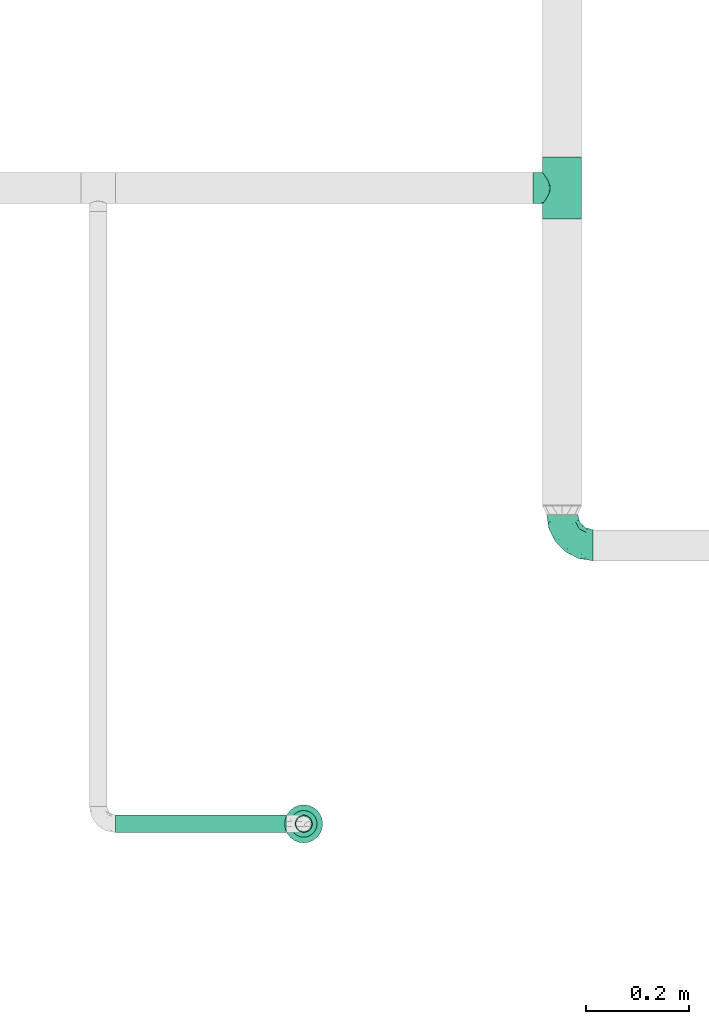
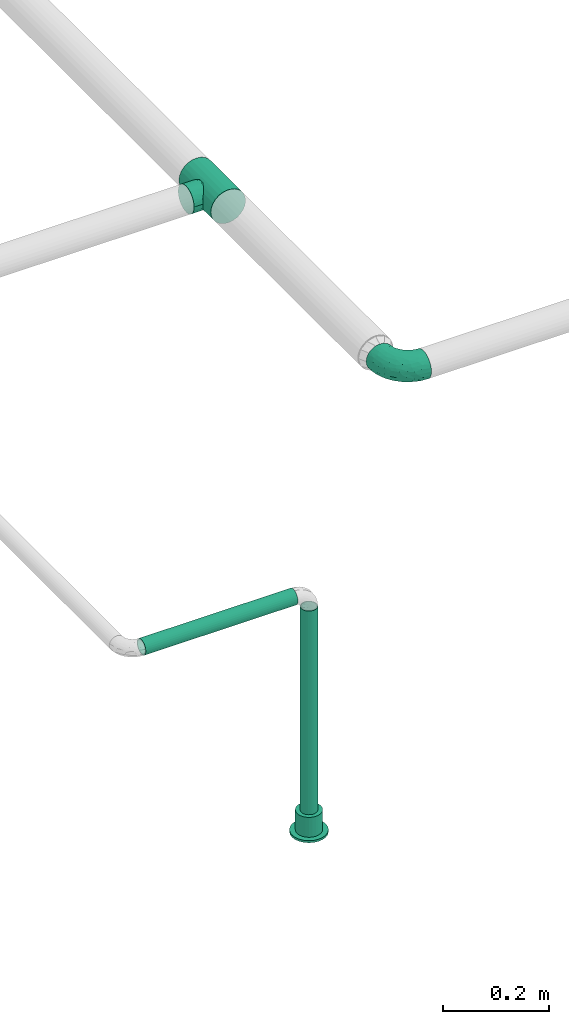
# One storey, part 26 of 95: 2 flow fittings, 2 flow segments, 1 flow terminal.
"""IFC2X3 building model written with IfcOpenShell, lengths in millimetres."""

import ifcopenshell
import ifcopenshell.guid

model = None  # the IFC model being written
_history = None  # IfcOwnerHistory: only IFC2X3 demands one
_inside = {}  # id of a spatial element -> (the spatial element, [elements in it])
_under = {}  # id of a project, library or spatial element -> (it, [spatial elements below it])
_declared = {}  # id of a project -> (the project, [libraries it declares])
_typed = {}  # id of a type object -> (the type object, [elements of that type])
_made_of = {}  # id of a material, layer set ... -> (it, [elements and type objects made of it])


def new_model(schema):
    """Start an empty IFC model of exactly this schema.

    Asked for "IFC4X3", IfcOpenShell would pick the latest addendum, in which some entities
    have other attributes; the version numbers below select the first issue.
    IFC2X3 requires an IfcOwnerHistory on every rooted entity: one is made here for all.
    """
    global model, _history
    if schema == "IFC4X3":
        model = ifcopenshell.file(schema_version=(4, 3, 0, 0))
    else:
        model = ifcopenshell.file(schema=schema)
    _inside.clear()
    _under.clear()
    _declared.clear()
    _typed.clear()
    _made_of.clear()
    _history = None
    if model.schema == "IFC2X3":
        org = make("IfcOrganization", Name="unknown")
        user = make(
            "IfcPersonAndOrganization",
            ThePerson=make("IfcPerson", FamilyName="unknown"),
            TheOrganization=org,
        )
        app = make(
            "IfcApplication",
            ApplicationDeveloper=org,
            Version="unknown",
            ApplicationFullName="unknown",
            ApplicationIdentifier="unknown",
        )
        _history = make(
            "IfcOwnerHistory",
            OwningUser=user,
            OwningApplication=app,
            ChangeAction="ADDED",
            CreationDate=0,
        )
    return model


def make(cls, **values):
    """One entity of the class cls with the attributes given. An attribute that is None is left unset."""
    return model.create_entity(
        cls, **{name: value for name, value in values.items() if value is not None}
    )


def entity(cls, *values):
    """Any entity or typed value of the class cls, its attributes in the order of the schema. None: left unset."""
    e = model.create_entity(cls)
    for i, value in enumerate(values):
        if value is not None:
            e[i] = value
    return e


def rooted(cls, **values):
    """An entity with a GlobalId (a new one), such as an element, a storey or a relation."""
    return make(cls, GlobalId=ifcopenshell.guid.new(), OwnerHistory=_history, **values)


def si_unit(unit_type, name, prefix=None):
    """IfcSIUnit, for example si_unit("LENGTHUNIT", "METRE", prefix="MILLI")."""
    return make("IfcSIUnit", UnitType=unit_type, Prefix=prefix, Name=name)


def converted_unit(unit_type, name, factor, base, dimensions=None, offset=None):
    """IfcConversionBasedUnit, such as the inch: factor (a typed value) times the base unit."""
    return make(
        "IfcConversionBasedUnit"
        if offset is None
        else "IfcConversionBasedUnitWithOffset",
        ConversionOffset=offset,
        Dimensions=None
        if dimensions is None
        else entity("IfcDimensionalExponents", *dimensions),
        UnitType=unit_type,
        Name=name,
        ConversionFactor=make(
            "IfcMeasureWithUnit", ValueComponent=factor, UnitComponent=base
        ),
    )


def derived_unit(unit_type, elements):
    """IfcDerivedUnit: a product of units, each with its exponent."""
    return make(
        "IfcDerivedUnit",
        Elements=[
            make("IfcDerivedUnitElement", Unit=unit, Exponent=power)
            for unit, power in elements
        ],
        UnitType=unit_type,
    )


def assignment(units):
    """IfcUnitAssignment: the units of a project."""
    return None if units is None else make("IfcUnitAssignment", Units=units)


def point(xyz):
    """IfcCartesianPoint."""
    return None if xyz is None else make("IfcCartesianPoint", Coordinates=xyz)


def direction(xyz):
    """IfcDirection."""
    return None if xyz is None else make("IfcDirection", DirectionRatios=xyz)


def frame(location, z_axis=None, x_axis=None):
    """IfcAxis2Placement3D, a coordinate frame: its origin and axes. An axis left out is left unset."""
    return make(
        "IfcAxis2Placement3D",
        Location=point(location),
        Axis=direction(z_axis),
        RefDirection=direction(x_axis),
    )


def frame_2d(location, x_axis=None):
    """IfcAxis2Placement2D, a coordinate frame in the plane: its origin and x axis."""
    return make(
        "IfcAxis2Placement2D", Location=point(location), RefDirection=direction(x_axis)
    )


def origin_with_axes():
    """The frame at (0, 0, 0) with the z axis (0, 0, 1) and the x axis (1, 0, 0) written out."""
    return frame((0.0, 0.0, 0.0), z_axis=(0.0, 0.0, 1.0), x_axis=(1.0, 0.0, 0.0))


def origin_2d_with_axis():
    """The frame at (0, 0) in the plane with the x axis (1, 0) written out."""
    return frame_2d((0.0, 0.0), x_axis=(1.0, 0.0))


def place(relative_to, where):
    """IfcLocalPlacement: puts the frame where relative to a parent placement (None: the world)."""
    return make(
        "IfcLocalPlacement", PlacementRelTo=relative_to, RelativePlacement=where
    )


def context(
    kind, dimensions, precision=None, world=None, true_north=None, identifier=None
):
    """IfcGeometricRepresentationContext, for example the 3D "Model" context."""
    return make(
        "IfcGeometricRepresentationContext",
        ContextIdentifier=identifier,
        ContextType=kind,
        CoordinateSpaceDimension=dimensions,
        Precision=precision,
        WorldCoordinateSystem=world,
        TrueNorth=true_north,
    )


def subcontext(parent, identifier, kind, view, scale=None):
    """IfcGeometricRepresentationSubContext, for example "Body" below "Model"."""
    return make(
        "IfcGeometricRepresentationSubContext",
        ContextIdentifier=identifier,
        ContextType=kind,
        ParentContext=parent,
        TargetScale=scale,
        TargetView=view,
    )


def project(units=None, contexts=None):
    """IfcProject with its units and contexts."""
    return rooted(
        "IfcProject",
        Name="project",
        RepresentationContexts=contexts,
        UnitsInContext=assignment(units),
    )


def spatial(cls, under=None, at=None, **own):
    """A site, building, storey or space (cls), placed at a placement, below another one or the project."""
    s = rooted(cls, ObjectPlacement=at, **own)
    if under is not None:
        _under.setdefault(under.id(), (under, []))[1].append(s)
    return s


def profile(cls, at=None, kind="AREA", **sizes):
    """A parametric profile (cls). Its sizes go by their IFC names, for example OverallWidth=200.0."""
    return make(cls, ProfileType=kind, Position=at, **sizes)


def hollow_circle(**sizes):
    """IfcCircleHollowProfileDef."""
    return profile("IfcCircleHollowProfileDef", **sizes)


def extrude(swept, where, along, depth):
    """IfcExtrudedAreaSolid: the profile swept, set in the frame where, extruded along a direction by depth."""
    return make(
        "IfcExtrudedAreaSolid",
        SweptArea=swept,
        Position=where,
        ExtrudedDirection=direction(along),
        Depth=depth,
    )


def faces_of(points, faces, orient=None, outer=None):
    """IfcFace entities. A face is a list of loops; a loop is a list of indices into points, from 0.

    orient and outer hold one flag for each loop. By default every Orientation is true, the
    first loop of a face is its IfcFaceOuterBound and the others are IfcFaceBound.
    """
    made = []
    for i, loops in enumerate(faces):
        bounds = []
        for j, loop in enumerate(loops):
            is_outer = j == 0 if outer is None else outer[i][j]
            bounds.append(
                make(
                    "IfcFaceOuterBound" if is_outer else "IfcFaceBound",
                    Bound=make("IfcPolyLoop", Polygon=[points[k] for k in loop]),
                    Orientation=True if orient is None else orient[i][j],
                )
            )
        made.append(make("IfcFace", Bounds=bounds))
    return made


def open_shell(faces, orient=None, outer=None):
    """The faces of one IfcOpenShell. surface_model builds it on its shared points."""
    return ("IfcOpenShell", faces, orient, outer)


def surface_model(cls, points, shells):
    """IfcFaceBasedSurfaceModel or IfcShellBasedSurfaceModel (cls): surfaces that need not close."""
    shared = [point(p) for p in points]
    made = [make(c, CfsFaces=faces_of(shared, fs, o, b)) for c, fs, o, b in shells]
    if cls == "IfcFaceBasedSurfaceModel":
        return make(cls, FbsmFaces=made)
    return make(cls, SbsmBoundary=made)


def shape(context_of_items, identifier, shape_type, items):
    """IfcShapeRepresentation: the items that make up one representation, for example the "Body"."""
    return make(
        "IfcShapeRepresentation",
        ContextOfItems=context_of_items,
        RepresentationIdentifier=identifier,
        RepresentationType=shape_type,
        Items=items,
    )


def source(mapping_origin, context_of_items, identifier, shape_type, items):
    """IfcRepresentationMap: a shape defined once, which mapped items show again and again."""
    return make(
        "IfcRepresentationMap",
        MappingOrigin=mapping_origin,
        MappedRepresentation=shape(context_of_items, identifier, shape_type, items),
    )


def transform(
    local_origin,
    x_axis=None,
    y_axis=None,
    z_axis=None,
    scale=None,
    scale2=None,
    scale3=None,
    uniform=True,
):
    """IfcCartesianTransformationOperator3D, or its non-uniform kind. x_axis, y_axis, z_axis: its Axis1, 2, 3."""
    if uniform:
        return make(
            "IfcCartesianTransformationOperator3D",
            Axis1=direction(x_axis),
            Axis2=direction(y_axis),
            LocalOrigin=point(local_origin),
            Scale=scale,
            Axis3=direction(z_axis),
        )
    return make(
        "IfcCartesianTransformationOperator3DnonUniform",
        Axis1=direction(x_axis),
        Axis2=direction(y_axis),
        LocalOrigin=point(local_origin),
        Scale=scale,
        Axis3=direction(z_axis),
        Scale2=scale2,
        Scale3=scale3,
    )


def mapped(mapping_source, mapping_target):
    """IfcMappedItem: shows the shape of a source again, moved by a transform."""
    return make(
        "IfcMappedItem", MappingSource=mapping_source, MappingTarget=mapping_target
    )


def made_of(thing, what):
    """Note that an element or type object is made of a material, layer set ...; save() writes the relation."""
    if what is not None:
        _made_of.setdefault(what.id(), (what, []))[1].append(thing)
    return thing


def type_object(cls, material=None, **own):
    """A type object (cls), such as IfcWallType, which elements share."""
    return made_of(rooted(cls, **own), material)


def element(
    cls,
    number,
    at=None,
    inside=None,
    cuts=None,
    type_object=None,
    material=None,
    context=None,
    identifier="Body",
    shape_type=None,
    held_by="IfcProductDefinitionShape",
    body=None,
    shapes=None,
    **own,
):
    """One element of the class cls, such as IfcWall. Its Tag is "e" and its number.

    at: its placement. inside: the storey or other place that contains it. cuts: it is an
    opening in that element (IfcRelVoidsElement). A single representation is given by context,
    identifier, shape_type and body (its items); several are given by shapes. held_by: the class
    of the entity that holds the representations. save() writes the other relations.
    """
    e = rooted(cls, Tag="e%d" % number, ObjectPlacement=at, **own)
    if body is not None:
        shapes = [shape(context, identifier, shape_type, body)]
    if shapes is not None:
        e.Representation = make(held_by, Representations=shapes)
    if inside is not None:
        _inside.setdefault(inside.id(), (inside, []))[1].append(e)
    if cuts is not None:
        rooted(
            "IfcRelVoidsElement", RelatingBuildingElement=cuts, RelatedOpeningElement=e
        )
    if type_object is not None:
        _typed.setdefault(type_object.id(), (type_object, []))[1].append(e)
    return made_of(e, material)


def aggregate(whole, parts):
    """IfcRelAggregates: a whole, such as a stair, and the parts it consists of."""
    return rooted("IfcRelAggregates", RelatingObject=whole, RelatedObjects=parts)


def save(model, path):
    """Write the relations noted so far, then the file.

    IfcRelAggregates (storeys below a building ...), IfcRelContainedInSpatialStructure (elements
    in a storey), IfcRelDefinesByType, IfcRelAssociatesMaterial and IfcRelDeclares: one each for
    every whole, place, type object, material and project.
    """
    for whole, parts in _under.values():
        aggregate(whole, parts)
    for where, things in _inside.values():
        rooted(
            "IfcRelContainedInSpatialStructure",
            RelatedElements=things,
            RelatingStructure=where,
        )
    for kind, things in _typed.values():
        rooted("IfcRelDefinesByType", RelatedObjects=things, RelatingType=kind)
    for what, things in _made_of.values():
        rooted("IfcRelAssociatesMaterial", RelatedObjects=things, RelatingMaterial=what)
    for by, libraries in _declared.values():
        rooted("IfcRelDeclares", RelatingContext=by, RelatedDefinitions=libraries)
    model.write(path)


model = new_model("IFC2X3")

# Units and contexts
model_context = context("Model", 3, precision=0.01, world=frame((0.0, 4.29681676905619e-09, 0.0)), true_north=direction((4.01073788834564e-13, 1.0)))
plan_context = context("Plan", 3, precision=0.01, world=frame((0.0, 4.29681676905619e-09, 0.0)), true_north=direction((4.01073788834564e-13, 1.0)))
body_context = subcontext(model_context, "Body", "Model", "MODEL_VIEW")
ifc_project = project(units=[converted_unit("PLANEANGLEUNIT", "DEGREE", entity("IfcPositiveLengthMeasure", 0.0174532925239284), si_unit("PLANEANGLEUNIT", "RADIAN"), dimensions=[0, 0, 0, 0, 0, 0, 0]), si_unit("AREAUNIT", "SQUARE_METRE"), si_unit("LENGTHUNIT", "METRE", prefix="MILLI"), si_unit("MASSUNIT", "GRAM", prefix="KILO"), si_unit("POWERUNIT", "WATT"), si_unit("PRESSUREUNIT", "PASCAL"), si_unit("FORCEUNIT", "NEWTON", prefix="KILO"), si_unit("ELECTRICVOLTAGEUNIT", "VOLT"), si_unit("ELECTRICCURRENTUNIT", "AMPERE"), si_unit("THERMODYNAMICTEMPERATUREUNIT", "DEGREE_CELSIUS"), si_unit("TIMEUNIT", "SECOND"), si_unit("VOLUMEUNIT", "CUBIC_METRE"), derived_unit("LINEARVELOCITYUNIT", [(si_unit("LENGTHUNIT", "METRE"), 1), (si_unit("TIMEUNIT", "SECOND"), -1)]), derived_unit("VOLUMETRICFLOWRATEUNIT", [(si_unit("VOLUMEUNIT", "CUBIC_METRE"), 1), (si_unit("TIMEUNIT", "SECOND"), -1)]), derived_unit("THERMALTRANSMITTANCEUNIT", [(si_unit("POWERUNIT", "WATT"), 1), (si_unit("THERMODYNAMICTEMPERATUREUNIT", "KELVIN"), -1), (si_unit("AREAUNIT", "SQUARE_METRE"), -1)]), derived_unit("SOUNDPRESSUREUNIT", [(si_unit("PRESSUREUNIT", "PASCAL"), 1)])], contexts=[model_context, plan_context])

# Site, building, storey
site_placement = place(None, frame((0.0, -4.29681676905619e-09, 0.0), z_axis=(0.0, 0.0, 1.0), x_axis=(1.0, 0.0, 0.0)))
site = spatial("IfcSite", under=ifc_project, at=site_placement, CompositionType="ELEMENT")
building_placement = place(site_placement, frame((0.0, 4.29681676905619e-09, 0.0), z_axis=(0.0, 0.0, 1.0), x_axis=(1.0, 0.0, 0.0)))
building = spatial("IfcBuilding", under=site, at=building_placement, Name="mc-building", CompositionType="ELEMENT")
storey_placement = place(building_placement, frame((0.0, 0.0, 210900.0), z_axis=(0.0, 0.0, 1.0), x_axis=(1.0, 0.0, 0.0)))
storey = spatial("IfcBuildingStorey", under=building, at=storey_placement, Name="Nivå F", CompositionType="ELEMENT", Elevation=210900.0)

# Flow fittings
pipe_fitting_type_1 = type_object("IfcPipeFittingType", Name="magi_pipe_fe_tee_centric_90_NOR", PredefinedType="JUNCTION")
shared_shape_1 = source(origin_with_axes(), body_context, "Body", "SurfaceModel", [
    surface_model("IfcShellBasedSurfaceModel", [(-60.4, 9.86101, -36.80177), (-60.4, 0.0, -38.1), (-60.4, 36.80177, -9.86101), (-60.4, 19.05, -32.99557), (-60.4, 32.99557, -19.05), (-60.4, 26.94077, -26.94077), (-60.4, -38.1, 0.0), (-60.4, -19.05, -32.99557), (-60.4, -26.94077, -26.94077), (-60.4, -9.86101, -36.80177), (-60.4, -32.99557, -19.05), (-60.4, -36.80177, -9.86101), (-60.4, 38.1, 0.0), (-60.4, 32.99557, 19.05), (-60.4, 36.80177, 9.86101), (-60.4, -36.80177, 9.86101), (-60.4, 19.05, 32.99557), (-60.4, 26.94077, 26.94077), (-60.4, 9.86101, 36.80177), (-60.4, 0.0, 38.1), (-60.4, -26.94077, 26.94077), (-60.4, -32.99557, 19.05), (-60.4, -9.86101, 36.80177), (-60.4, -19.05, 32.99557), (60.4, 0.0, -38.1), (60.4, 9.86101, -36.80177), (60.4, 19.05, -32.99557), (60.4, 26.94077, -26.94077), (60.4, 32.99557, -19.05), (60.4, 36.80177, -9.86101), (60.4, -38.1, 0.0), (60.4, -9.86101, -36.80177), (60.4, -26.94077, -26.94077), (60.4, -19.05, -32.99557), (60.4, -32.99557, -19.05), (60.4, -36.80177, -9.86101), (60.4, 36.80177, 9.86101), (60.4, 32.99557, 19.05), (60.4, 19.05, 32.99557), (60.4, 0.0, 38.1), (60.4, 26.94077, 26.94077), (60.4, 9.86101, 36.80177), (60.4, -26.94077, 26.94077), (60.4, -32.99557, 19.05), (60.4, -36.80177, 9.86101), (60.4, -19.05, 32.99557), (60.4, -9.86101, 36.80177), (60.4, 38.1, 0.0), (30.2, -38.1, 0.0), (28.21297, -36.54506, 10.7735), (22.90358, -32.62122, 19.68415), (15.23524, -27.77917, 26.07542), (5.49864, -23.87059, 29.6952), (-30.2, -38.1, 0.0), (-28.21409, -36.54593, 10.77057), (-15.2375, -27.78041, 26.0741), (-5.50829, -23.87281, 29.69341), (-22.9083, -32.62453, 19.67866), (5.49864, -23.87059, -29.6952), (22.90358, -32.62122, -19.68415), (15.23524, -27.77917, -26.07542), (28.21297, -36.54506, -10.7735), (-5.50829, -23.87281, -29.69341), (-15.2375, -27.78041, -26.0741), (-22.9083, -32.62453, -19.67866), (-28.21409, -36.54593, -10.77057), (-21.35462, -57.15, -21.35462), (0.0, -57.15, -30.2), (7.81634, -57.15, -29.17096), (15.1, -57.15, -26.15397), (-30.2, -57.15, 0.0), (26.15397, -57.15, -15.1), (21.35462, -57.15, -21.35462), (26.15397, -57.15, 15.1), (-7.81634, -57.15, -29.17096), (-15.1, -57.15, -26.15397), (-29.17096, -57.15, -7.81634), (-26.15397, -57.15, -15.1), (29.17096, -57.15, -7.81634), (30.2, -57.15, 0.0), (29.17096, -57.15, 7.81634), (7.81634, -57.15, 29.17096), (15.1, -57.15, 26.15397), (21.35462, -57.15, 21.35462), (-21.35462, -57.15, 21.35462), (-26.15397, -57.15, 15.1), (-29.17096, -57.15, 7.81634), (-15.1, -57.15, 26.15397), (0.0, -57.15, 30.2), (-7.81634, -57.15, 29.17096), (-29.20704, -37.32296, 5.38529), (29.20648, -37.32253, 5.38675), (-0.00482, -23.8717, 29.69431), (29.20648, -37.32253, -5.38675), (-29.20704, -37.32296, -5.38529), (-0.00482, -23.8717, -29.69431)], [open_shell([[[0, 1, 2]], [[3, 0, 2]], [[2, 4, 5]], [[3, 2, 5]], [[6, 2, 1]], [[7, 8, 9]], [[8, 1, 9]], [[10, 11, 8]], [[6, 8, 11]], [[8, 6, 1]], [[6, 12, 2]], [[13, 14, 12]], [[15, 13, 6]], [[16, 13, 15]], [[17, 13, 16]], [[18, 16, 19]], [[20, 19, 21]], [[16, 15, 21]], [[22, 19, 23]], [[20, 23, 19]], [[21, 19, 16]], [[12, 6, 13]], [[24, 25, 26]], [[24, 26, 27]], [[27, 28, 29]], [[24, 27, 30]], [[30, 27, 29]], [[31, 32, 33]], [[31, 24, 32]], [[34, 30, 35]], [[30, 34, 32]], [[24, 30, 32]], [[29, 36, 30]], [[36, 37, 30]], [[30, 37, 38]], [[38, 39, 30]], [[38, 37, 40]], [[39, 38, 41]], [[30, 42, 43]], [[44, 30, 43]], [[45, 39, 46]], [[45, 42, 30]], [[30, 39, 45]], [[36, 29, 47]], [[30, 44, 48]], [[49, 48, 44]], [[44, 43, 49]], [[43, 42, 50]], [[51, 50, 42]], [[52, 51, 42]], [[42, 45, 52]], [[43, 50, 49]], [[53, 54, 15]], [[15, 6, 53]], [[54, 21, 15]], [[55, 56, 20]], [[21, 57, 20]], [[57, 21, 54]], [[20, 57, 55]], [[56, 23, 20]], [[52, 23, 56]], [[19, 46, 39]], [[22, 45, 46]], [[18, 39, 41]], [[37, 36, 14]], [[17, 38, 40]], [[13, 40, 37]], [[41, 38, 16]], [[12, 36, 47]], [[23, 45, 22]], [[22, 46, 19]], [[18, 19, 39]], [[41, 16, 18]], [[16, 38, 17]], [[13, 17, 40]], [[14, 13, 37]], [[36, 12, 14]], [[45, 23, 52]], [[29, 28, 4]], [[28, 27, 5]], [[47, 29, 12]], [[24, 31, 9]], [[25, 0, 26]], [[1, 25, 24]], [[26, 3, 27]], [[7, 31, 33]], [[2, 12, 29]], [[28, 5, 4]], [[2, 29, 4]], [[27, 3, 5]], [[3, 26, 0]], [[1, 0, 25]], [[9, 1, 24]], [[31, 7, 9]], [[33, 58, 7]], [[32, 59, 60]], [[59, 32, 34]], [[60, 58, 32]], [[32, 58, 33]], [[35, 30, 48]], [[35, 61, 34]], [[61, 35, 48]], [[34, 61, 59]], [[62, 63, 8]], [[8, 64, 10]], [[64, 8, 63]], [[62, 8, 7]], [[65, 53, 11]], [[65, 11, 10]], [[11, 53, 6]], [[65, 10, 64]], [[58, 62, 7]], [[66, 67, 68]], [[69, 66, 68]], [[70, 69, 71]], [[71, 69, 72]], [[73, 70, 71]], [[74, 66, 75]], [[74, 67, 66]], [[66, 76, 77]], [[76, 66, 70]], [[69, 70, 66]], [[71, 78, 79]], [[79, 80, 73]], [[81, 70, 73]], [[82, 81, 73]], [[82, 73, 83]], [[70, 81, 84]], [[70, 85, 86]], [[84, 85, 70]], [[87, 88, 89]], [[88, 87, 84]], [[81, 88, 84]], [[73, 71, 79]], [[86, 90, 70]], [[57, 85, 84]], [[91, 49, 80]], [[86, 85, 54]], [[84, 87, 55]], [[90, 53, 70]], [[54, 85, 57]], [[55, 89, 56]], [[55, 57, 84]], [[88, 52, 92]], [[55, 87, 89]], [[88, 56, 89]], [[51, 81, 82]], [[86, 54, 90]], [[83, 51, 82]], [[49, 73, 80]], [[83, 73, 50]], [[52, 88, 81]], [[81, 51, 52]], [[92, 56, 88]], [[51, 83, 50]], [[50, 73, 49]], [[79, 91, 80]], [[91, 79, 48]], [[78, 93, 79]], [[59, 71, 72]], [[94, 65, 76]], [[78, 71, 61]], [[72, 69, 60]], [[93, 48, 79]], [[61, 71, 59]], [[60, 68, 58]], [[60, 59, 72]], [[67, 62, 95]], [[60, 69, 68]], [[67, 58, 68]], [[63, 74, 75]], [[78, 61, 93]], [[66, 63, 75]], [[65, 77, 76]], [[66, 77, 64]], [[62, 67, 74]], [[74, 63, 62]], [[95, 58, 67]], [[63, 66, 64]], [[64, 77, 65]], [[70, 94, 76]], [[94, 70, 53]]])]),
])
flow_fitting_1_placement = place(storey_placement, frame((534602.7875, 450838.0, 4310.0), z_axis=(0.0, 0.0, 1.0), x_axis=(0.0, -1.0, 0.0)))
element("IfcFlowFitting", 1, at=flow_fitting_1_placement, inside=storey, type_object=pipe_fitting_type_1, Name="magi_pipe_fe_tee_centric_90_NOR", context=body_context, shape_type="MappedRepresentation", body=[
    mapped(shared_shape_1, transform((0.0, 0.0, 0.0), scale=1.0)),
])
pipe_fitting_type_2 = type_object("IfcPipeFittingType", Name="magi_pipe_fe_elbow_short_001", PredefinedType="BEND")
shared_shape_2 = source(origin_with_axes(), body_context, "Body", "SurfaceModel", [
    surface_model("IfcShellBasedSurfaceModel", [(-60.4, 15.1, -26.15397), (-60.4, 7.81634, -29.17096), (-60.4, 0.0, -30.2), (-60.4, -21.35462, -21.35462), (-60.4, 26.15397, -15.1), (-60.4, 21.35462, -21.35462), (-60.4, 29.17096, -7.81634), (-60.4, -15.1, -26.15397), (-60.4, -7.81634, -29.17096), (-60.4, -26.15397, -15.1), (-60.4, -29.17096, -7.81634), (-60.4, -30.2, 0.0), (-60.4, -29.17096, 7.81634), (-60.4, 29.17096, 7.81634), (-60.4, -21.35462, 21.35462), (-60.4, 26.15397, 15.1), (-60.4, 21.35462, 21.35462), (-60.4, 7.81634, 29.17096), (-60.4, 15.1, 26.15397), (-60.4, -26.15397, 15.1), (-60.4, -7.81634, 29.17096), (-60.4, 0.0, 30.2), (-60.4, -15.1, 26.15397), (-60.4, 30.2, 0.0), (0.0, 60.4, -30.2), (-7.81634, 60.4, -29.17096), (-15.1, 60.4, -26.15397), (-26.15397, 60.4, -15.1), (-29.17096, 60.4, -7.81634), (-21.35462, 60.4, -21.35462), (29.17096, 60.4, -7.81634), (7.81634, 60.4, -29.17096), (21.35462, 60.4, -21.35462), (15.1, 60.4, -26.15397), (26.15397, 60.4, -15.1), (29.17096, 60.4, 7.81634), (30.2, 60.4, 0.0), (-29.17096, 60.4, 7.81634), (21.35462, 60.4, 21.35462), (-21.35462, 60.4, 21.35462), (-26.15397, 60.4, 15.1), (-15.1, 60.4, 26.15397), (-7.81634, 60.4, 29.17096), (26.15397, 60.4, 15.1), (15.1, 60.4, 26.15397), (0.0, 60.4, 30.2), (7.81634, 60.4, 29.17096), (-30.2, 60.4, 0.0), (-40.79975, -26.48639, 9.49143), (-44.2927, -23.46036, 16.95222), (-32.40306, -25.76572, 0.0), (-45.54716, -27.84754, 0.0), (-7.73382, -10.42985, 11.64553), (-2.102, -8.06735, 6.35117), (1.74449, -1.74448, 12.51332), (-46.13593, -4.00068, 29.68351), (-42.2898, 4.62925, 30.14853), (10.31662, 7.37496, 11.34434), (18.44156, 24.57514, 15.02148), (7.07276, 10.95732, 19.27498), (-30.06693, -0.27102, 29.27145), (-44.17726, -11.39441, 27.16031), (-23.4551, -7.13383, 25.24246), (-38.74025, -17.25266, 22.43475), (-27.059, -23.14697, 6.2131), (-19.77486, -19.33133, 0.0), (-10.95732, -7.07276, 19.27498), (-5.39458, 5.39458, 24.69106), (-29.52069, 48.20084, 13.12597), (-25.22813, 47.01796, 19.8404), (-11.27311, 52.093, 28.2877), (-4.13904, 45.17494, 30.12582), (-46.55352, 11.8443, 28.52822), (-7.88305, 20.22717, 29.65331), (-15.00576, 5.54025, 28.20072), (-3.0852, 16.31623, 27.75343), (-52.24998, 18.2886, 24.60768), (-10.49591, 29.69865, 30.14582), (-22.36958, 22.36958, 29.4662), (-17.98262, 13.19715, 30.04443), (-47.74519, 32.16745, 6.63994), (-48.21585, 29.51581, 13.12396), (-37.49729, 37.49729, 11.28901), (-47.20967, 25.1754, 19.81929), (17.25266, 38.74025, 22.43475), (-31.32046, 40.03273, 17.09289), (11.39441, 44.17725, 27.16031), (23.46036, 44.2927, 16.95222), (26.48639, 40.79975, 9.49143), (-7.14666, -12.89694, 0.0), (-14.66463, -16.61192, 7.82462), (4.00068, 46.13593, 29.68351), (-33.18602, 12.93608, 29.65955), (-29.63414, 7.40029, 30.18711), (19.33133, 19.77486, 0.0), (23.14697, 27.059, 6.2131), (16.61192, 14.66463, 7.82462), (27.84754, 45.54716, 0.0), (-32.10611, 20.49149, 27.93323), (-24.57514, -18.44156, 15.02148), (-21.89487, 39.03366, 25.38224), (-18.45005, 50.6405, 24.73297), (-31.78933, 48.71949, 6.47886), (-37.84917, 39.61073, 5.315), (13.91334, 24.32737, 20.46816), (7.13383, 23.4551, 25.24246), (-34.24603, 45.3, 0.0), (-27.95749, 31.89166, 24.81537), (-41.58677, 20.50028, 25.43151), (-0.46157, 0.46157, 17.84239), (-17.23338, 31.26213, 29.03145), (-24.05994, 29.23812, 27.47858), (-13.06094, 40.92174, 28.76128), (-31.83392, 33.72702, 21.39203), (-38.78737, 32.45032, 16.84022), (0.27102, 30.06693, 29.27145), (-24.21469, -13.23741, 21.05734), (8.23548, 2.19333, 6.02161), (25.76572, 32.40306, 0.0), (12.89694, 7.14666, 0.0), (-45.3, 34.24603, 0.0), (2.87514, -2.87514, 0.0), (-44.53432, 26.00869, -20.11577), (-48.18822, 29.5248, -13.12766), (-24.67192, -7.62159, -25.33714), (-26.22398, -0.37671, -28.72374), (-12.13397, -0.50536, -24.74577), (-47.80891, 3.81859, -30.10171), (-44.05719, -27.03585, -9.84546), (-37.94552, -22.39569, -16.35738), (-28.81663, -22.64668, -10.132), (-43.93799, 12.32789, -28.63778), (-33.27, 7.1392, -30.19348), (-26.0087, 44.53432, -20.11577), (-48.89164, 31.68872, -6.60822), (-18.95522, 47.41145, -24.9828), (-12.32789, 43.93799, -28.63778), (-38.42778, 38.42778, -7.21049), (18.04263, 43.69152, -22.80146), (10.42233, 38.24532, -26.85918), (11.90576, 51.00473, -27.48545), (-5.88381, -10.62327, -7.95335), (-5.9694, -7.83116, -13.76182), (3.24899, -2.56331, -7.96861), (-17.62229, 16.32998, -30.18286), (-28.62959, 17.86952, -29.30113), (-47.41145, 18.95522, -24.98279), (-50.84455, -24.04089, -17.54629), (-29.38053, 34.30665, -22.74674), (-27.91099, 27.91099, -26.51666), (-36.91219, 25.51094, -23.99233), (2.63361, -0.55507, -12.94367), (-43.69152, -18.04263, -22.80146), (22.39569, 37.94552, -16.35738), (27.03585, 44.05719, -9.84546), (22.64668, 28.81663, -10.132), (-51.00473, -11.90576, -27.48545), (3.80785, 44.49426, -29.64782), (-19.0921, -14.69952, -16.47487), (-22.5489, -12.31934, -21.1263), (-10.94772, -7.46239, -18.88204), (-32.95885, -13.78948, -23.71249), (-38.24532, -10.42233, -26.85918), (-44.49427, -3.80785, -29.64782), (-22.6301, 37.15314, -25.58239), (-31.68872, 48.89164, -6.60822), (-3.8186, 47.80891, -30.10171), (-10.66133, 10.66133, -28.51691), (0.37671, 26.22398, -28.72374), (1.27136, 14.18619, -25.18541), (-29.5248, 48.18821, -13.12766), (-36.27113, 36.27113, -14.88553), (24.04089, 50.84455, -17.54629), (17.50188, 24.2636, -16.21902), (9.73525, 11.44907, -16.75087), (12.31934, 22.5489, -21.1263), (6.24176, 25.78208, -26.38266), (-7.1392, 33.27, -30.19348), (-36.7166, 19.4356, -27.21946), (-18.00754, 29.38864, -29.15505), (-0.28629, 0.28629, -17.49884), (-13.98848, -16.88492, -5.19509), (15.48569, 15.00432, -11.24742), (16.88492, 13.98848, -5.19509), (3.55782, 9.20508, -21.18402), (-15.00432, -15.48569, -11.24742)], [open_shell([[[0, 1, 2]], [[0, 2, 3]], [[4, 0, 3]], [[5, 0, 4]], [[6, 4, 3]], [[7, 3, 8]], [[3, 2, 8]], [[9, 10, 3]], [[3, 10, 6]], [[11, 12, 10]], [[13, 6, 10]], [[13, 10, 14]], [[15, 13, 16]], [[17, 18, 16]], [[13, 17, 16]], [[17, 13, 14]], [[19, 14, 12]], [[12, 14, 10]], [[20, 21, 22]], [[17, 14, 22]], [[17, 22, 21]], [[13, 23, 6]], [[24, 25, 26]], [[24, 26, 27]], [[27, 28, 24]], [[27, 26, 29]], [[24, 28, 30]], [[31, 32, 33]], [[31, 24, 32]], [[32, 30, 34]], [[24, 30, 32]], [[30, 35, 36]], [[30, 28, 37]], [[38, 30, 37]], [[39, 37, 40]], [[39, 41, 42]], [[39, 42, 37]], [[38, 37, 42]], [[35, 38, 43]], [[30, 38, 35]], [[44, 45, 46]], [[44, 38, 42]], [[45, 44, 42]], [[28, 47, 37]], [[48, 49, 19]], [[50, 48, 51]], [[52, 53, 54]], [[12, 48, 19]], [[12, 51, 48]], [[21, 55, 56]], [[19, 49, 14]], [[57, 58, 59]], [[60, 61, 62]], [[63, 22, 14]], [[63, 61, 22]], [[64, 50, 65]], [[62, 66, 67]], [[40, 68, 69]], [[42, 70, 71]], [[17, 72, 18]], [[73, 74, 75]], [[18, 76, 16]], [[20, 55, 21]], [[77, 78, 79]], [[80, 81, 82]], [[15, 83, 81]], [[84, 38, 44]], [[23, 13, 80]], [[13, 15, 81]], [[68, 85, 69]], [[83, 15, 16]], [[21, 56, 17]], [[44, 86, 84]], [[16, 76, 83]], [[87, 58, 88]], [[40, 37, 68]], [[89, 90, 65]], [[45, 91, 46]], [[65, 90, 64]], [[45, 42, 71]], [[92, 93, 79]], [[88, 35, 43]], [[43, 38, 87]], [[87, 88, 43]], [[94, 95, 96]], [[88, 97, 35]], [[98, 72, 92]], [[49, 99, 63]], [[69, 100, 101]], [[82, 102, 103]], [[104, 105, 59]], [[106, 102, 47]], [[98, 107, 108]], [[102, 82, 68]], [[86, 44, 46]], [[69, 39, 40]], [[109, 54, 57]], [[110, 100, 111]], [[22, 61, 20]], [[101, 41, 39]], [[70, 42, 41]], [[112, 77, 71]], [[84, 86, 105]], [[96, 95, 58]], [[100, 69, 113]], [[72, 17, 56]], [[108, 113, 83]], [[81, 114, 82]], [[112, 110, 77]], [[91, 71, 115]], [[62, 61, 63]], [[55, 61, 60]], [[116, 99, 66]], [[74, 62, 67]], [[91, 86, 46]], [[105, 86, 115]], [[75, 105, 115]], [[109, 67, 66]], [[59, 105, 67]], [[48, 64, 99]], [[99, 49, 48]], [[63, 14, 49]], [[38, 84, 87]], [[58, 87, 84]], [[92, 72, 56]], [[76, 72, 108]], [[102, 68, 37]], [[82, 114, 85]], [[98, 111, 107]], [[112, 70, 101]], [[114, 83, 113]], [[82, 103, 80]], [[92, 79, 78]], [[115, 71, 77]], [[74, 79, 60]], [[77, 79, 73]], [[71, 91, 45]], [[86, 91, 115]], [[61, 55, 20]], [[56, 55, 60]], [[57, 54, 117]], [[104, 59, 58]], [[116, 66, 62]], [[52, 99, 90]], [[12, 11, 51]], [[97, 88, 118]], [[97, 36, 35]], [[53, 90, 89]], [[90, 53, 52]], [[94, 96, 119]], [[88, 95, 118]], [[117, 54, 53]], [[92, 56, 93]], [[98, 92, 78]], [[111, 98, 78]], [[72, 98, 108]], [[110, 111, 78]], [[107, 111, 100]], [[47, 102, 37]], [[102, 106, 103]], [[106, 120, 103]], [[103, 120, 80]], [[23, 80, 120]], [[13, 81, 80]], [[56, 60, 93]], [[60, 79, 93]], [[117, 121, 119]], [[121, 117, 53]], [[53, 89, 121]], [[119, 96, 117]], [[117, 96, 57]], [[77, 110, 78]], [[100, 110, 112]], [[83, 114, 81]], [[85, 114, 113]], [[69, 85, 113]], [[82, 85, 68]], [[109, 52, 54]], [[99, 52, 66]], [[69, 101, 39]], [[112, 101, 100]], [[100, 113, 107]], [[108, 107, 113]], [[62, 74, 60]], [[75, 74, 67]], [[105, 75, 67]], [[73, 75, 115]], [[77, 73, 115]], [[74, 73, 79]], [[99, 64, 90]], [[50, 64, 48]], [[118, 95, 94]], [[58, 95, 88]], [[58, 57, 96]], [[109, 57, 59]], [[72, 76, 18]], [[83, 76, 108]], [[101, 70, 41]], [[71, 70, 112]], [[58, 84, 104]], [[105, 104, 84]], [[67, 109, 59]], [[52, 109, 66]], [[62, 63, 116]], [[99, 116, 63]], [[122, 4, 123]], [[124, 125, 126]], [[2, 1, 127]], [[128, 129, 130]], [[127, 131, 132]], [[27, 29, 133]], [[120, 134, 23]], [[135, 26, 136]], [[123, 134, 137]], [[138, 139, 140]], [[122, 5, 4]], [[141, 142, 143]], [[144, 132, 145]], [[131, 0, 146]], [[128, 9, 147]], [[148, 149, 150]], [[128, 51, 10]], [[142, 151, 143]], [[152, 3, 7]], [[153, 154, 155]], [[156, 152, 7]], [[31, 157, 24]], [[158, 159, 160]], [[147, 9, 3]], [[129, 152, 161]], [[156, 7, 8]], [[162, 163, 125]], [[154, 34, 30]], [[120, 106, 137]], [[149, 148, 164]], [[47, 28, 165]], [[163, 8, 2]], [[4, 6, 123]], [[25, 166, 136]], [[167, 168, 169]], [[170, 133, 171]], [[25, 24, 166]], [[33, 32, 138]], [[157, 31, 140]], [[28, 27, 170]], [[32, 34, 172]], [[26, 135, 29]], [[132, 131, 145]], [[31, 33, 140]], [[173, 174, 175]], [[169, 168, 176]], [[25, 136, 26]], [[175, 138, 173]], [[168, 177, 157]], [[163, 162, 156]], [[153, 172, 154]], [[9, 128, 10]], [[154, 97, 118]], [[131, 178, 145]], [[0, 5, 146]], [[175, 139, 138]], [[155, 118, 94]], [[131, 1, 0]], [[146, 178, 131]], [[170, 137, 165]], [[149, 179, 145]], [[171, 133, 148]], [[160, 180, 142]], [[65, 181, 89]], [[170, 165, 28]], [[137, 171, 123]], [[172, 138, 32]], [[138, 153, 173]], [[168, 157, 139]], [[166, 157, 177]], [[176, 175, 169]], [[168, 167, 144]], [[154, 30, 97]], [[155, 182, 173]], [[162, 124, 161]], [[147, 152, 129]], [[127, 163, 2]], [[132, 144, 125]], [[132, 125, 163]], [[125, 167, 126]], [[129, 158, 130]], [[30, 36, 97]], [[143, 182, 183]], [[169, 126, 167]], [[5, 122, 146]], [[178, 150, 149]], [[136, 179, 164]], [[133, 29, 135]], [[123, 6, 134]], [[122, 123, 171]], [[133, 170, 27]], [[137, 170, 171]], [[184, 175, 174]], [[180, 160, 126]], [[126, 169, 184]], [[126, 159, 124]], [[51, 128, 50]], [[51, 11, 10]], [[131, 127, 1]], [[163, 127, 132]], [[157, 166, 24]], [[136, 166, 177]], [[164, 179, 149]], [[144, 167, 125]], [[179, 144, 145]], [[168, 144, 177]], [[136, 177, 179]], [[144, 179, 177]], [[141, 121, 89]], [[89, 181, 141]], [[154, 118, 155]], [[183, 155, 94]], [[143, 183, 119]], [[119, 183, 94]], [[155, 183, 182]], [[181, 130, 185]], [[50, 128, 130]], [[130, 181, 65]], [[50, 130, 65]], [[141, 181, 185]], [[142, 141, 185]], [[143, 121, 141]], [[158, 160, 142]], [[142, 180, 151]], [[158, 142, 185]], [[126, 160, 159]], [[130, 158, 185]], [[129, 159, 158]], [[23, 134, 6]], [[120, 137, 134]], [[137, 106, 165]], [[47, 165, 106]], [[174, 151, 180]], [[182, 143, 151]], [[150, 146, 122]], [[149, 145, 178]], [[146, 150, 178]], [[122, 171, 148]], [[148, 150, 122]], [[164, 133, 135]], [[133, 164, 148]], [[164, 135, 136]], [[138, 140, 33]], [[157, 140, 139]], [[154, 172, 34]], [[138, 172, 153]], [[163, 156, 8]], [[152, 156, 162]], [[152, 147, 3]], [[128, 147, 129]], [[155, 173, 153]], [[174, 173, 182]], [[151, 174, 182]], [[174, 180, 184]], [[126, 184, 180]], [[175, 184, 169]], [[168, 139, 176]], [[175, 176, 139]], [[161, 124, 159]], [[125, 124, 162]], [[129, 161, 159]], [[162, 161, 152]], [[143, 119, 121]]])]),
])
flow_fitting_2_placement = place(storey_placement, frame((534602.7875, 450142.9624, 4310.0), z_axis=(0.0, 0.0, 1.0), x_axis=(0.0, -1.0, 0.0)))
element("IfcFlowFitting", 2, at=flow_fitting_2_placement, inside=storey, type_object=pipe_fitting_type_2, Name="magi_pipe_fe_elbow_short_001", context=body_context, shape_type="MappedRepresentation", body=[
    mapped(shared_shape_2, transform((0.0, 0.0, 0.0), scale=1.0)),
])

# Flow segments
pipe_segment_type = type_object("IfcPipeSegmentType", Name="Stålrør normaltykke", PredefinedType="RIGIDSEGMENT")
shared_shape_3 = source(origin_with_axes(), body_context, "Body", "SweptSolid", [
    extrude(hollow_circle(Radius=16.9, WallThickness=2.0, at=origin_2d_with_axis()), frame((0.0, 0.0, 0.0), z_axis=(1.0, 0.0, 0.0), x_axis=(0.0, 1.0, 0.0)), (0.0, 0.0, 1.0), 506.9),
])
flow_segment_1_placement = place(storey_placement, frame((534099.81038, 449600.84543, 4276.20000000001), z_axis=(-0.000893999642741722, -0.99999960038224, 0.0), x_axis=(0.0, 0.0, -1.0)))
element("IfcFlowSegment", 3, at=flow_segment_1_placement, inside=storey, type_object=pipe_segment_type, Name="Stålrør normaltykke", context=body_context, shape_type="MappedRepresentation", body=[
    mapped(shared_shape_3, transform((0.0, 0.0, 0.0), scale=1.0)),
])
shared_shape_4 = source(origin_with_axes(), body_context, "Body", "SweptSolid", [
    extrude(hollow_circle(Radius=16.9, WallThickness=2.0, at=origin_2d_with_axis()), frame((0.0, 0.0, 0.0), z_axis=(1.0, 0.0, 0.0), x_axis=(0.0, 1.0, 0.0)), (0.0, 0.0, 1.0), 332.4),
])
flow_segment_2_placement = place(storey_placement, frame((534066.01038, 449600.84543, 4310.0), z_axis=(0.0, 0.0, 1.0), x_axis=(-1.0, 0.0, 0.0)))
element("IfcFlowSegment", 4, at=flow_segment_2_placement, inside=storey, type_object=pipe_segment_type, Name="Stålrør normaltykke", context=body_context, shape_type="MappedRepresentation", body=[
    mapped(shared_shape_4, transform((0.0, 0.0, 0.0), scale=1.0)),
])

# Flow terminal
fire_suppression_terminal_type = type_object("IfcFireSuppressionTerminalType", Name="68DGR-STD-SKJULT I HIMLING", PredefinedType="NOTDEFINED")
shared_shape_5 = source(origin_with_axes(), body_context, "Body", "SurfaceModel", [
    surface_model("IfcShellBasedSurfaceModel", [(-26.0, 0.0, -46.0), (-25.11407, -6.72929, -46.0), (-25.11407, -6.72929, 0.0), (6.72929, -25.11407, 0.0), (6.72929, -25.11407, -46.0), (13.0, -22.51666, -46.0), (22.51666, -13.0, -46.0), (22.51666, -13.0, 0.0), (18.38478, -18.38478, 0.0), (25.11407, -6.72929, 0.0), (25.11407, -6.72929, -46.0), (26.0, 0.0, -46.0), (26.0, 0.0, 0.0), (25.11407, 6.72929, -46.0), (22.51666, 13.0, 0.0), (25.11407, 6.72929, 0.0), (13.0, 22.51666, -46.0), (6.72929, 25.11407, -46.0), (6.72929, 25.11407, 0.0), (18.38478, 18.38478, 0.0), (22.51666, 13.0, -46.0), (-25.11407, 6.72929, 0.0), (-25.11407, 6.72929, -46.0), (-26.16295, -26.16295, 5.0), (35.73926, -9.57631, 5.0), (37.0, 0.0, 5.0), (13.0, 22.51666, 0.0), (-26.0, 0.0, 0.0), (-13.0, 22.51666, 0.0), (-6.72929, 25.11407, 0.0), (0.0, 26.0, 0.0), (-22.51666, 13.0, 0.0), (-18.38478, 18.38478, 0.0), (13.0, -22.51666, 0.0), (0.0, -26.0, 0.0), (-22.51666, -13.0, 0.0), (-18.38478, -18.38478, 0.0), (-13.0, -22.51666, 0.0), (-6.72929, -25.11407, 0.0), (0.0, -26.0, -46.0), (18.38478, -18.38478, -46.0), (-18.38478, -18.38478, -46.0), (-13.0, -22.51666, -46.0), (-6.72929, -25.11407, -46.0), (-22.51666, -13.0, -46.0), (18.38478, 18.38478, -46.0), (-22.51666, 13.0, -46.0), (-18.38478, 18.38478, -46.0), (-13.0, 22.51666, -46.0), (-6.72929, 25.11407, -46.0), (0.0, 26.0, -46.0), (18.5, 32.04294, 5.0), (9.57631, 35.73926, 5.0), (35.73926, 9.57631, 5.0), (26.16295, 26.16295, 5.0), (32.04294, 18.5, 5.0), (-35.73926, -9.57631, 5.0), (-18.5, 32.04294, 5.0), (-9.57631, 35.73926, 5.0), (0.0, 37.0, 5.0), (-32.04294, 18.5, 5.0), (-35.73926, 9.57631, 5.0), (-26.16295, 26.16295, 5.0), (-37.0, 0.0, 5.0), (32.04294, -18.5, 5.0), (0.0, -37.0, 5.0), (26.16295, -26.16295, 5.0), (18.5, -32.04294, 5.0), (9.57631, -35.73926, 5.0), (-9.57631, -35.73926, 5.0), (-32.04294, -18.5, 5.0), (-18.5, -32.04294, 5.0), (18.5, -32.04294, 0.0), (9.57631, -35.73926, 0.0), (0.0, -37.0, 0.0), (32.04294, -18.5, 0.0), (-26.16295, -26.16295, 0.0), (26.16295, -26.16295, 0.0), (-35.73926, 9.57631, 0.0), (-18.5, -32.04294, 0.0), (-9.57631, -35.73926, 0.0), (-32.04294, -18.5, 0.0), (-35.73926, -9.57631, 0.0), (-37.0, 0.0, 0.0), (35.73926, -9.57631, 0.0), (35.73926, 9.57631, 0.0), (32.04294, 18.5, 0.0), (18.5, 32.04294, 0.0), (9.57631, 35.73926, 0.0), (26.16295, 26.16295, 0.0), (-32.04294, 18.5, 0.0), (-26.16295, 26.16295, 0.0), (-9.57631, 35.73926, 0.0), (0.0, 37.0, 0.0), (-18.5, 32.04294, 0.0), (37.0, 0.0, 0.0)], [open_shell([[[0, 1, 2]], [[3, 4, 5]], [[6, 7, 8]], [[9, 7, 10]], [[11, 12, 9]], [[13, 14, 15]], [[15, 12, 11]], [[16, 17, 18]], [[19, 14, 20]], [[21, 22, 0]], [[23, 24, 25]], [[19, 26, 18]], [[19, 18, 21]], [[27, 15, 19]], [[14, 19, 15]], [[19, 21, 27]], [[28, 21, 29]], [[18, 30, 29]], [[31, 21, 32]], [[28, 32, 21]], [[29, 21, 18]], [[12, 15, 27]], [[8, 7, 9]], [[33, 8, 9]], [[34, 3, 33]], [[9, 34, 33]], [[27, 34, 9]], [[2, 35, 27]], [[36, 27, 35]], [[37, 38, 36]], [[34, 27, 36]], [[36, 38, 34]], [[12, 27, 9]], [[5, 4, 39]], [[5, 39, 22]], [[10, 6, 40]], [[5, 10, 40]], [[39, 41, 22]], [[42, 41, 43]], [[41, 39, 43]], [[1, 0, 44]], [[44, 0, 22]], [[22, 41, 44]], [[10, 5, 22]], [[45, 13, 10]], [[20, 13, 45]], [[17, 16, 45]], [[10, 22, 45]], [[45, 22, 17]], [[46, 47, 22]], [[48, 22, 47]], [[48, 49, 22]], [[49, 17, 22]], [[49, 50, 17]], [[11, 10, 13]], [[46, 22, 21]], [[46, 31, 47]], [[49, 48, 28]], [[32, 48, 47]], [[50, 49, 29]], [[21, 0, 27]], [[21, 31, 46]], [[31, 32, 47]], [[48, 32, 28]], [[28, 29, 49]], [[29, 30, 50]], [[16, 26, 45]], [[13, 20, 14]], [[19, 20, 45]], [[11, 13, 15]], [[30, 18, 17]], [[18, 26, 16]], [[26, 19, 45]], [[50, 30, 17]], [[11, 9, 10]], [[10, 7, 6]], [[3, 39, 4]], [[6, 8, 40]], [[3, 5, 33]], [[8, 33, 5]], [[5, 40, 8]], [[3, 34, 39]], [[42, 43, 38]], [[42, 37, 41]], [[1, 44, 35]], [[36, 44, 41]], [[34, 38, 43]], [[38, 37, 42]], [[37, 36, 41]], [[36, 35, 44]], [[1, 35, 2]], [[2, 27, 0]], [[39, 34, 43]], [[51, 52, 53]], [[54, 51, 55]], [[56, 52, 57]], [[55, 51, 53]], [[52, 56, 53]], [[58, 57, 59]], [[57, 52, 59]], [[60, 61, 62]], [[57, 62, 63]], [[62, 61, 63]], [[53, 23, 25]], [[64, 24, 65]], [[66, 64, 67]], [[65, 68, 67]], [[64, 65, 67]], [[69, 65, 24]], [[70, 23, 56]], [[56, 57, 63]], [[71, 69, 23]], [[23, 53, 56]], [[24, 23, 69]], [[72, 73, 74]], [[75, 72, 74]], [[76, 75, 74]], [[77, 72, 75]], [[75, 76, 78]], [[79, 76, 80]], [[76, 74, 80]], [[81, 82, 76]], [[82, 78, 76]], [[83, 78, 82]], [[75, 78, 84]], [[85, 84, 78]], [[86, 85, 87]], [[85, 88, 87]], [[89, 86, 87]], [[88, 85, 78]], [[90, 91, 78]], [[91, 88, 78]], [[92, 93, 94]], [[88, 91, 94]], [[88, 94, 93]], [[95, 84, 85]], [[83, 61, 78]], [[78, 60, 90]], [[94, 91, 57]], [[62, 91, 90]], [[92, 94, 58]], [[61, 60, 78]], [[83, 63, 61]], [[94, 57, 58]], [[57, 91, 62]], [[90, 60, 62]], [[92, 58, 59]], [[59, 93, 92]], [[93, 52, 88]], [[88, 51, 87]], [[86, 89, 55]], [[54, 89, 87]], [[85, 86, 53]], [[51, 54, 87]], [[88, 52, 51]], [[85, 53, 25]], [[53, 86, 55]], [[89, 54, 55]], [[85, 25, 95]], [[59, 52, 93]], [[95, 24, 84]], [[84, 64, 75]], [[72, 77, 67]], [[66, 77, 75]], [[73, 72, 68]], [[24, 64, 84]], [[95, 25, 24]], [[72, 67, 68]], [[67, 77, 66]], [[75, 64, 66]], [[73, 68, 65]], [[65, 74, 73]], [[74, 69, 80]], [[80, 71, 79]], [[81, 76, 70]], [[23, 76, 79]], [[82, 81, 56]], [[71, 23, 79]], [[80, 69, 71]], [[82, 56, 63]], [[56, 81, 70]], [[76, 23, 70]], [[82, 63, 83]], [[65, 69, 74]]])]),
])
flow_terminal_placement = place(storey_placement, frame((534099.81038, 449600.84543, 3759.89999999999), z_axis=(0.0, 0.0, -1.0), x_axis=(1.0, 0.0, 0.0)))
element("IfcFlowTerminal", 5, at=flow_terminal_placement, inside=storey, type_object=fire_suppression_terminal_type, Name="68DGR-STD-SKJULT I HIMLING", context=body_context, shape_type="MappedRepresentation", body=[
    mapped(shared_shape_5, transform((0.0, 0.0, 0.0), scale=1.0)),
])

save(model, "model.ifc")
